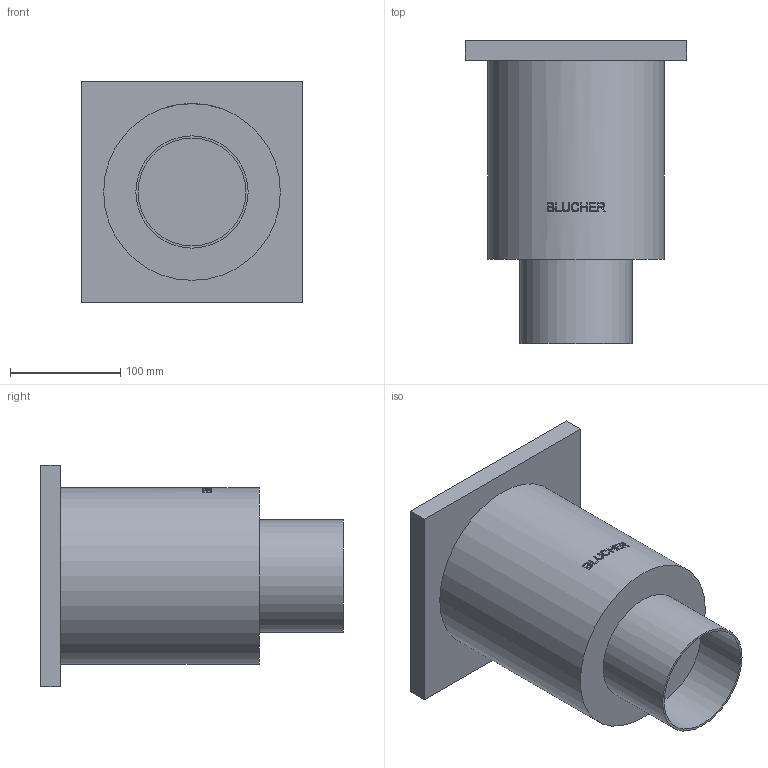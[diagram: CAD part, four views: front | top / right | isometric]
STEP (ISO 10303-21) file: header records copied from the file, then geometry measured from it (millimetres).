
FILE_DESCRIPTION((''),'2;1');
FILE_NAME('C:\Drawings\3D_CAD_Models\Blucher\BFD_Floor Drains_Complete_091119\BFD-600\WebsiteFiles\3D\STEP\BFD-614.stp','2009-11-30T11:47:31',('hofmansp'),(''),'Autodesk Inventor 2010','Autodesk Inventor 2010','');
FILE_SCHEMA(('AUTOMOTIVE_DESIGN { 1 0 10303 214 1 1 1 1 }'));
Length unit declared in the file: inch
Products named in the file (1): BFD-614
Bounding box: 200.15 x 274.32 x 200.15 mm (x, y, z)
Volume: 4577657.7 mm3; surface area: 231257.3 mm2
Topology: 1 solids, 1 shells, 114 faces, 291 edges, 194 vertices
Faces by surface type: plane 65, bspline 34, cylinder 15
Full cylindrical faces by diameter (mm): 97.536 x1, 101.6 x1, 153.924 x1, 156.972 x1, 160.02 x1
Entity records: 14180 total; most frequent: CARTESIAN_POINT 11680, ORIENTED_EDGE 572, DIRECTION 380, EDGE_CURVE 286, VERTEX_POINT 194, EDGE_LOOP 134, VECTOR 128, LINE 128
